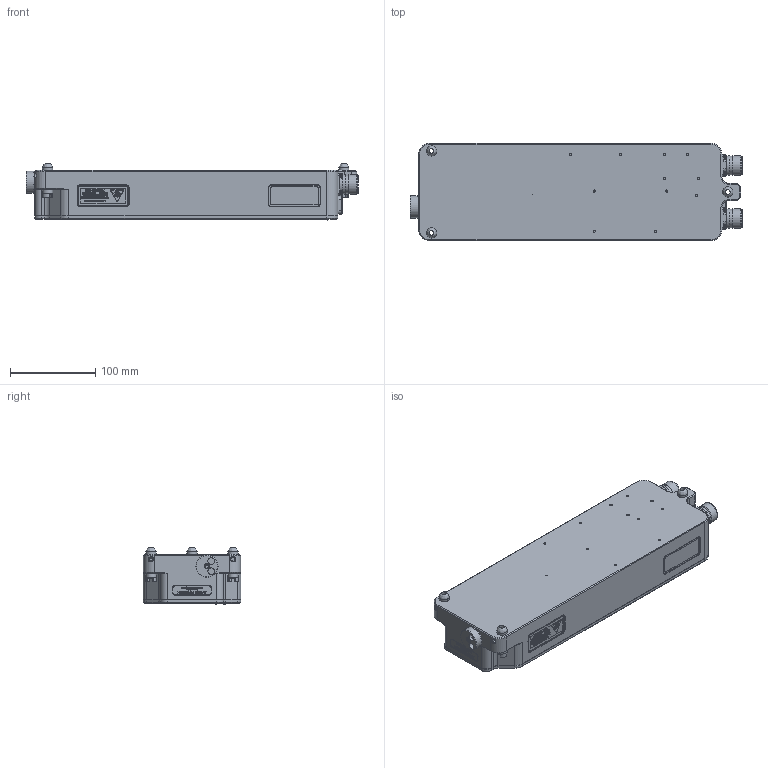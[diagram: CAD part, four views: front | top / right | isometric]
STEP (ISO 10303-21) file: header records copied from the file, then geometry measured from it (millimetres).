
FILE_DESCRIPTION(/* description */ (''),/* implementation_level */ '2;1');
FILE_NAME(/* name */ 'LA_8003_3155_C.stp',/* time_stamp */ '2012-05-03T12:22:33+01:00',/* author */ (''),/* organization */ (''),/* preprocessor_version */ 'ST-DEVELOPER v11',/* originating_system */ 'SIEMENS PLM Software NX 7.5',/* authorisation */ '');
FILE_SCHEMA (('AP203_CONFIGURATION_CONTROLLED_3D_DESIGN_OF_MECHANICAL_PARTS_AND_ASSEMBLIES_MIM_LF'));
Products named in the file (1): LA-8003-3155_C
Bounding box: 388.85 x 114 x 67 mm (x, y, z)
Volume: 2305869.5 mm3; surface area: 160818.9 mm2
Topology: 1 solids, 264 shells, 6826 faces, 18450 edges, 12625 vertices
Faces by surface type: plane 4125, extrusion 1760, cylinder 772, cone 100, torus 28, sphere 26, bspline 15
Full cylindrical faces by diameter (mm): 0.599 x1, 0.699 x1, 1 x24, 1.012 x1, 2 x1, 2.5 x7, 2.6 x17, 2.7 x6, 2.75 x5, 2.752 x1, 2.789 x1, 2.837 x1, 3 x4, 3.2 x2, 3.307 x1, 4 x6, 5 x9, 5.188 x2, 5.5 x6, 6 x3, 6.2 x1, 6.5 x1, 7 x6, 7.5 x5, 8 x3, 8.95 x3, 9.025 x3, 11.874 x6, 12.05 x6, 15 x3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
Entity records: 280653 total; most frequent: CARTESIAN_POINT 73046, ORIENTED_EDGE 35050, DIRECTION 24633, EDGE_CURVE 18092, VERTEX_POINT 12507, VECTOR 11887, LINE 10127, B_SPLINE_CURVE_WITH_KNOTS 8404
